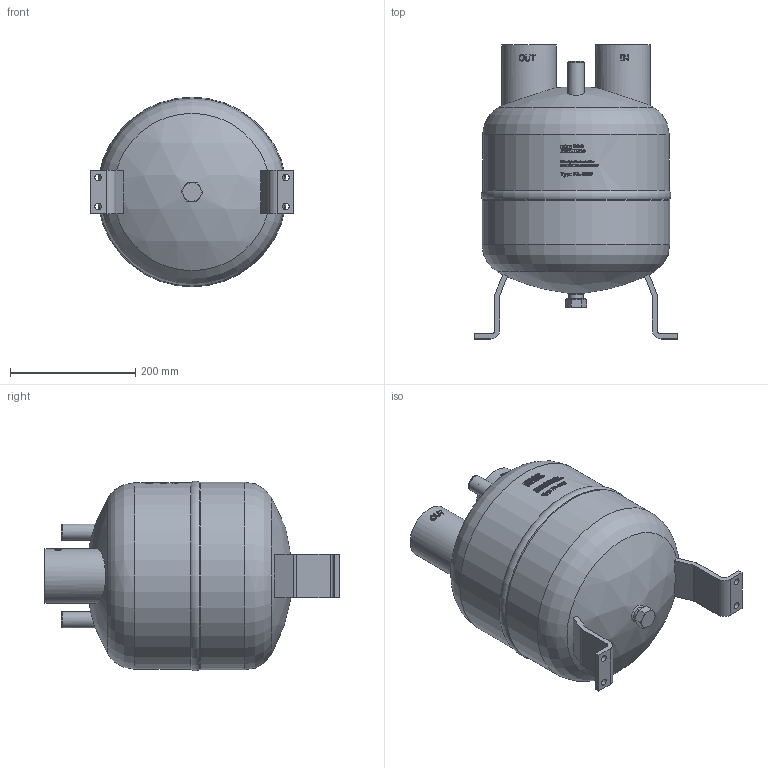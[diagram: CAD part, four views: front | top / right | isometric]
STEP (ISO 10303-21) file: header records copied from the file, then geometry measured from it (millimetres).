
FILE_DESCRIPTION(/* description */ (''),/* implementation_level */ '2;1');
FILE_NAME(/* name */ 'P:\FA\FA-80W\FA-80W.stp',/* time_stamp */ '2017-10-05T08:05:54+02:00',/* author */ ('neufeld'),/* organization */ (''),/* preprocessor_version */ 'ST-DEVELOPER v16.1',/* originating_system */ 'Autodesk Inventor 2016',/* authorisation */ '');
FILE_SCHEMA (('AUTOMOTIVE_DESIGN { 1 0 10303 214 3 1 1 }'));
Length unit declared in the file: millimetre
Products named in the file (2): FA-80W; FA-80W_1
Assembly tree (1 placements, depth 2):
  FA-80W_1
    FA-80W
Bounding box: 324 x 469.9 x 303.22 mm (x, y, z)
Volume: 20344500.6 mm3; surface area: 485001.6 mm2
Topology: 1 solids, 1 shells, 1242 faces, 3364 edges, 2238 vertices
Faces by surface type: plane 671, bspline 421, cylinder 126, cone 17, torus 5, sphere 2
Full cylindrical faces by diameter (mm): 10.5 x4, 22.4 x2, 22.5 x1, 23.6 x1, 25.4 x2, 26 x2, 80.3 x2, 87 x2, 298 x1, 300 x1
Entity records: 48311 total; most frequent: CARTESIAN_POINT 19209, ORIENTED_EDGE 6664, DIRECTION 4976, EDGE_CURVE 3332, VERTEX_POINT 2234, AXIS2_PLACEMENT_3D 1696, LINE 1584, VECTOR 1584
